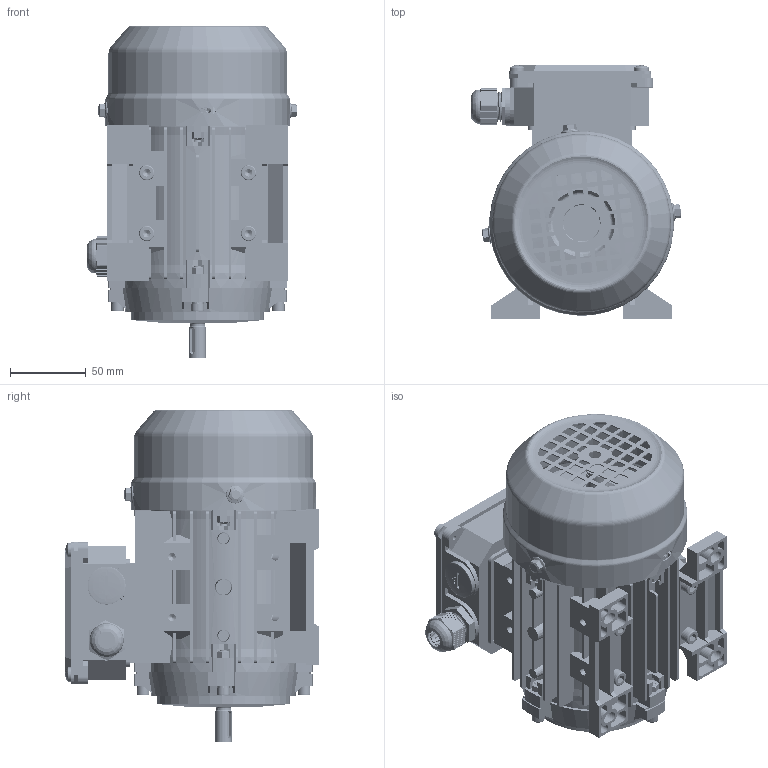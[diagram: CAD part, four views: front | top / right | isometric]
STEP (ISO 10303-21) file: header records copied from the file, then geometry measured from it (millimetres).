
FILE_DESCRIPTION (( 'STEP AP203' ), '1' );
FILE_NAME ('MS-63 B3 3Dͼ.STEP', '2024-08-05T08:47:26', ( 'User' ), ( 'China' ), 'SwSTEP 2.0', 'SolidWorks 2018', '' );
FILE_SCHEMA (( 'CONFIG_CONTROL_DESIGN' ));
Length unit declared in the file: millimetre
Products named in the file (20): MS63 邧脯瑞欶; MS63-71諉盄碟裔; MS63 儂褲; hex flange bolts-heavy grade b gb_GB_FASTENER_BOLT_HFBB M5X10-S; 蹟杶郋M20X1.5; MS63 B3綴裔; cross recessed pan head screws gb_GB_CROSS_SCREWS_TYPE1 M5X6-6  H type-S; 蹟簸M20X1.5; deep groove ball bearings gb_Rolling bearings 6201 GB 276-94; MS-63 B3  3Dͼ; 黑芛20X1.5; MS63 蛌粣; hexagon socket head cap screws gb_GB_FASTENER_SCREWS_HSHCS M5X25-S; MS63 B3ヶ裔; hex nuts, style 1-grades ab gb_GB_FASTENER_NUT_SNAB1 M5-S; 蚐猾24X12X5; spring lock washers--normal type gb_GB_FASTENER_WASHER_SW 5; MS-63 菁褐; hexagon socket head cap screws gb_GB_FASTENER_SCREWS_HSHCS M6X20-S; MS63-71諉盄碟菁釱
Assembly tree (46 placements, depth 2):
  MS-63 B3  3Dͼ
    MS63 儂褲
    MS63 B3綴裔
    deep groove ball bearings gb_Rolling bearings 6201 GB 276-94  x2
    MS63 蛌粣
    MS63 B3ヶ裔
    蚐猾24X12X5  x2
    MS-63 菁褐  x2
    MS63-71諉盄碟菁釱
    MS63-71諉盄碟裔
    蹟杶郋M20X1.5
    蹟簸M20X1.5
    黑芛20X1.5
    hexagon socket head cap screws gb_GB_FASTENER_SCREWS_HSHCS M5X25-S  x8
    hex nuts, style 1-grades ab gb_GB_FASTENER_NUT_SNAB1 M5-S  x7
    spring lock washers--normal type gb_GB_FASTENER_WASHER_SW 5  x4
    hexagon socket head cap screws gb_GB_FASTENER_SCREWS_HSHCS M6X20-S  x4
    MS63 邧脯瑞欶
    hex flange bolts-heavy grade b gb_GB_FASTENER_BOLT_HFBB M5X10-S  x3
    cross recessed pan head screws gb_GB_CROSS_SCREWS_TYPE1 M5X6-6  H type-S  x4
Bounding box: 138.64 x 167.5 x 218.64 mm (x, y, z)
Volume: 514494.1 mm3; surface area: 401064.1 mm2
Topology: 49 solids, 49 shells, 7775 faces, 18553 edges, 10861 vertices
Faces by surface type: cone 3016, plane 2193, cylinder 2114, torus 220, bspline 176, sphere 56
Entity records: 142078 total; most frequent: CARTESIAN_POINT 48011, ORIENTED_EDGE 19960, DIRECTION 17781, EDGE_CURVE 9980, VERTEX_POINT 6321, AXIS2_PLACEMENT_3D 6155, VECTOR 5471, LINE 5471
